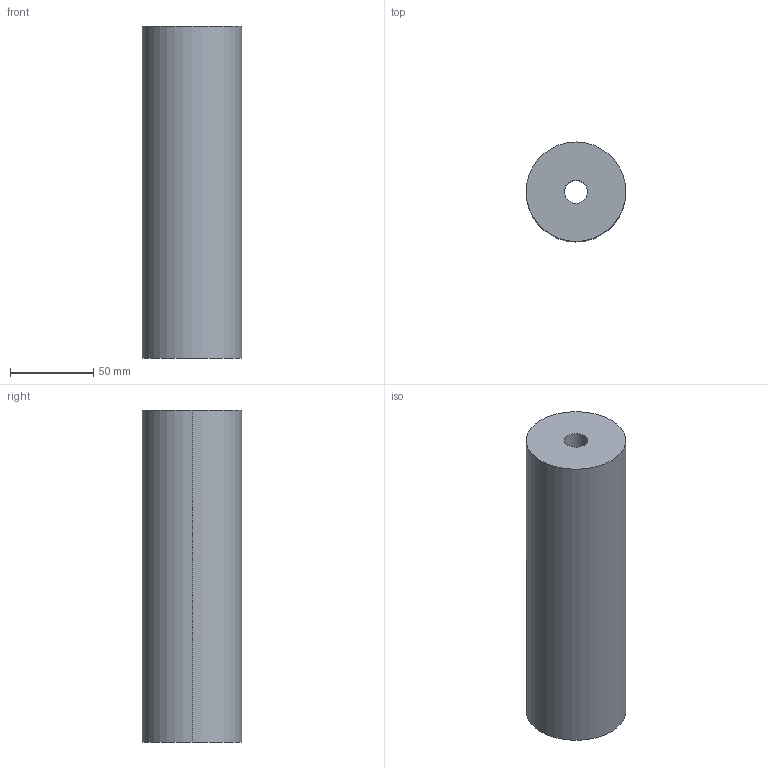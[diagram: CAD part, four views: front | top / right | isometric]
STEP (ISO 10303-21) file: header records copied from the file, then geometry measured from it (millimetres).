
FILE_DESCRIPTION(/* description */ (''),/* implementation_level */ '2;1');
FILE_NAME(/* name */ '3d_pla60-200_04965_r00.stp',/* time_stamp */ '2011-01-10T14:11:43+09:00',/* author */ ('MISUMI'),/* organization */ (''),/* preprocessor_version */ 'ST-DEVELOPER v11',/* originating_system */ 'UGS - NX 5.0',/* authorisation */ '');
FILE_SCHEMA (('CONFIG_CONTROL_DESIGN'));
Length unit declared in the file: millimetre
Products named in the file (1): 3d_pla60-200_04965_r00
Bounding box: 60 x 60 x 200 mm (x, y, z)
Volume: 534699.1 mm3; surface area: 51842.6 mm2
Topology: 1 solids, 1 shells, 6 faces, 12 edges, 8 vertices
Faces by surface type: cylinder 4, plane 2
Entity records: 254 total; most frequent: DIRECTION 34, CARTESIAN_POINT 27, ORIENTED_EDGE 24, AXIS2_PLACEMENT_3D 15, EDGE_CURVE 12, EDGE_LOOP 8, VERTEX_POINT 8, CIRCLE 8
